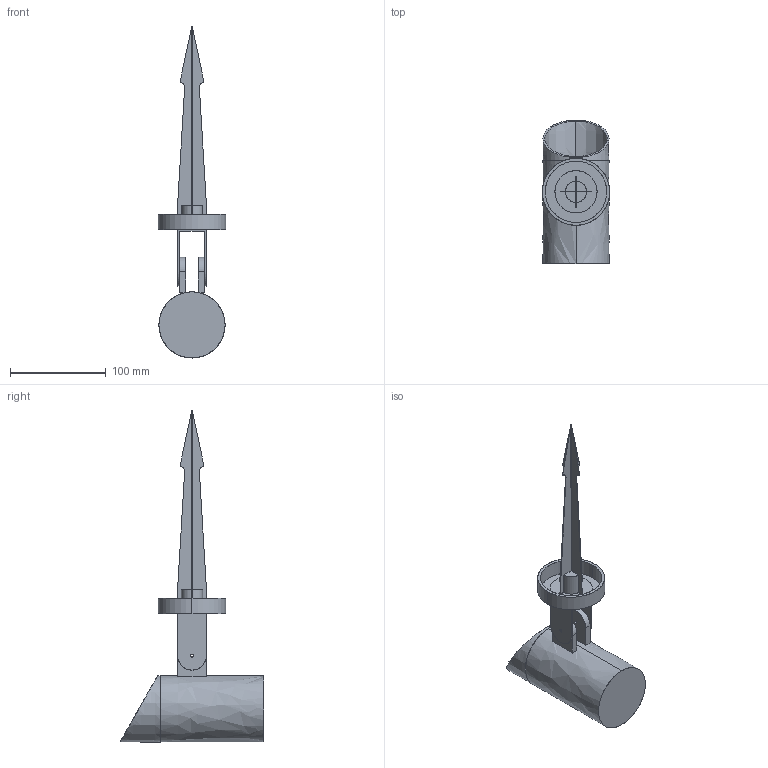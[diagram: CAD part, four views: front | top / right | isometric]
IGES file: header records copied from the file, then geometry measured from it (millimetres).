
Start section: SolidWorks IGES file using analytic representation for surfaces
Global section: file name: C:\Users\danielet\Desktop\3D CARLOS\SEIREN-H2072-3D\SEIREN-H2072-3D.IGS; native system: SolidWorks 2018; preprocessor: SolidWorks 2018; author: danielet; date: 220126.131349; units: millimetre
Bounding box: 70 x 150 x 346.34 mm (x, y, z)
Surface area: 82552.7 mm2 (no closed solid volume)
Topology: 0 solids, 0 shells, 104 faces, 2104 edges, 2104 vertices
Faces by surface type: revolution 53, bspline 51
